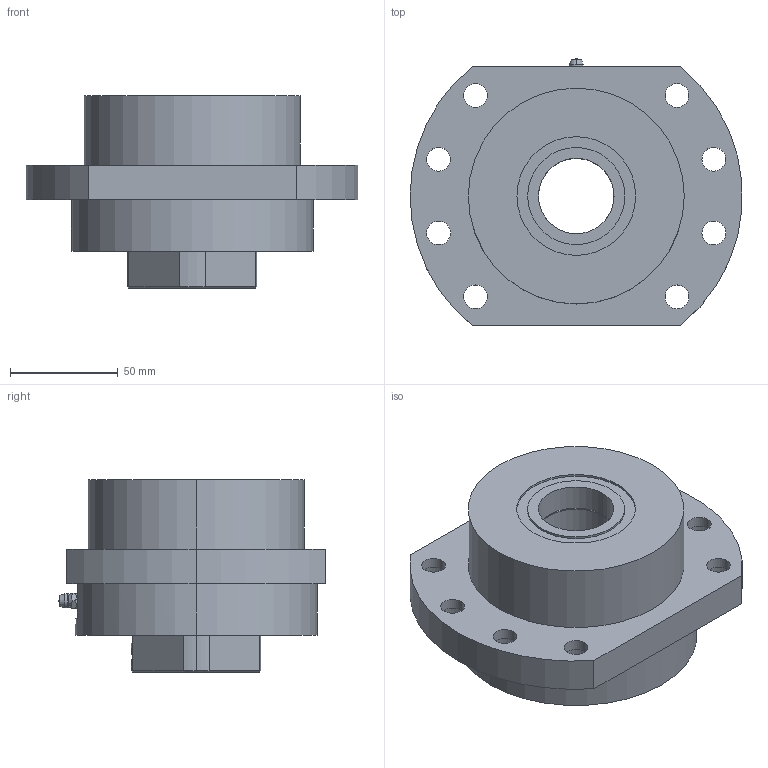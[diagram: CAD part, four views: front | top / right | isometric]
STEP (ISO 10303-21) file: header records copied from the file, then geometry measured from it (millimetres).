
FILE_DESCRIPTION (( 'STEP AP203' ), '1' );
FILE_NAME ('FK35G.STEP', '2018-09-15T04:05:11', ( '' ), ( '' ), 'SwSTEP 2.0', 'SolidWorks 2015', '' );
FILE_SCHEMA (( 'CONFIG_CONTROL_DESIGN' ));
Length unit declared in the file: millimetre
Products named in the file (1): FK35G
Bounding box: 153.75 x 123.9 x 89 mm (x, y, z)
Volume: 637272.4 mm3; surface area: 117546.4 mm2
Topology: 1 solids, 19 shells, 479 faces, 1067 edges, 640 vertices
Faces by surface type: cylinder 172, plane 166, cone 74, torus 60, bspline 7
Entity records: 13576 total; most frequent: CARTESIAN_POINT 2625, DIRECTION 2500, ORIENTED_EDGE 2078, EDGE_CURVE 1039, AXIS2_PLACEMENT_3D 1033, VERTEX_POINT 640, EDGE_LOOP 563, CIRCLE 560
